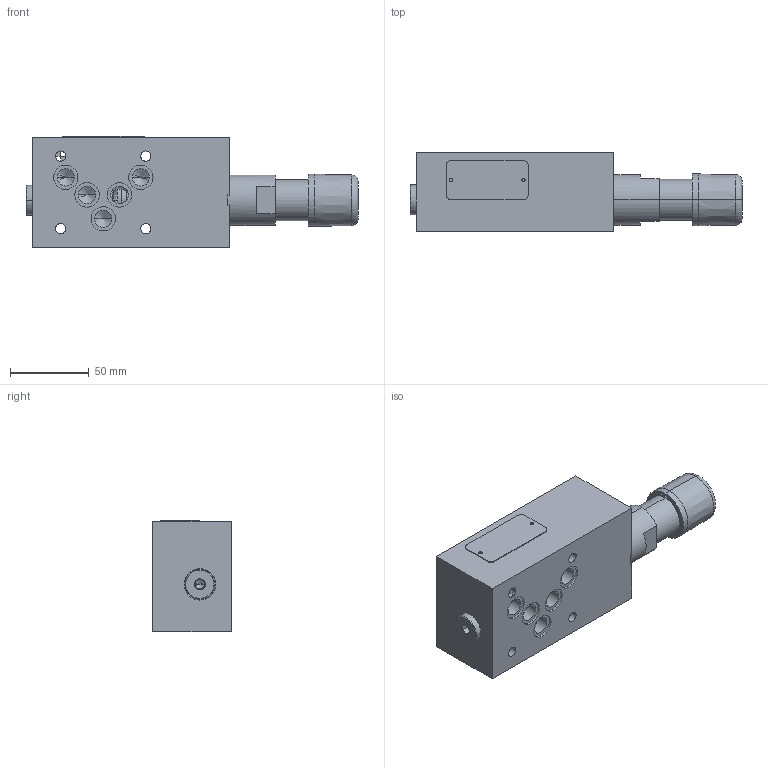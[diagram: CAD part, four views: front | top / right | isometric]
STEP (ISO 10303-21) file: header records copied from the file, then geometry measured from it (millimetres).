
FILE_DESCRIPTION((''),'2;1');
FILE_NAME('VRN2_10_MB_21S_159857_ASM','2018-10-16T',('l.soukupova'),(''),'PRO/ENGINEER BY PARAMETRIC TECHNOLOGY CORPORATION, 2015440','PRO/ENGINEER BY PARAMETRIC TECHNOLOGY CORPORATION, 2015440','');
FILE_SCHEMA(('AUTOMOTIVE_DESIGN { 1 0 10303 214 1 1 1 1 }'));
Length unit declared in the file: millimetre
Products named in the file (5): IMP_VRN2_10_MB; VRN2_10_S_S; VSTI_1_4_ED_154763; RD_LABEL_25X52; VRN2_10_MB_21S_159857_ASM
Assembly tree (4 placements, depth 2):
  VRN2_10_MB_21S_159857_ASM
    IMP_VRN2_10_MB
    VRN2_10_S_S
    VSTI_1_4_ED_154763
    RD_LABEL_25X52
Bounding box: 210.5 x 50 x 70.5 mm (x, y, z)
Volume: 454926.8 mm3; surface area: 77642.1 mm2
Topology: 4 solids, 10 shells, 250 faces, 695 edges, 514 vertices
Faces by surface type: cylinder 115, plane 66, cone 59, torus 10
Entity records: 11583 total; most frequent: CARTESIAN_POINT 1633, DIRECTION 1566, ORIENTED_EDGE 1142, PRESENTATION_STYLE_ASSIGNMENT 798, STYLED_ITEM 728, CURVE_STYLE 719, AXIS2_PLACEMENT_3D 619, EDGE_CURVE 583
